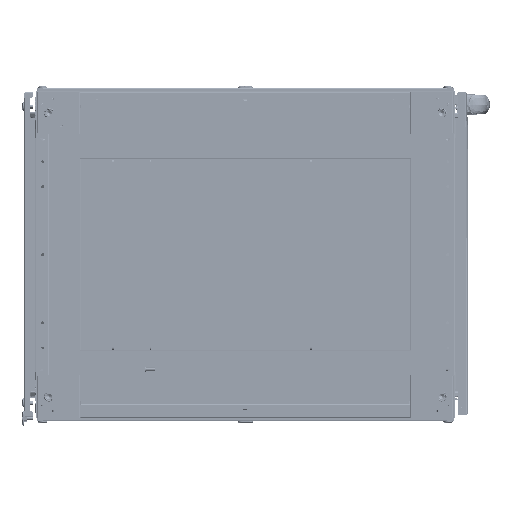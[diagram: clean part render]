
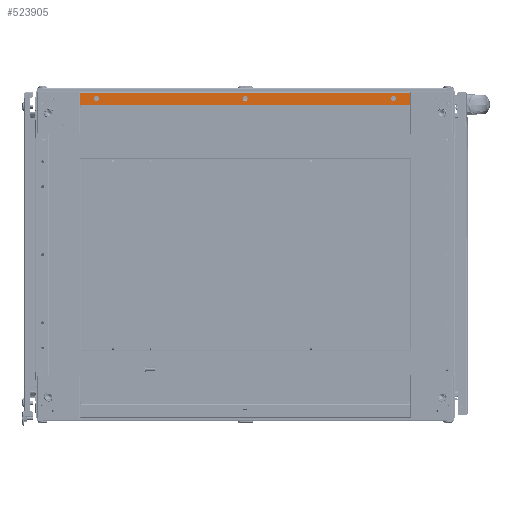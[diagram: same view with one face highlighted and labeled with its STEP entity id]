
A CAD part, front view. The second image highlights one B-rep face of the part: STEP entity #523905.
In plain terms, the highlighted planar face has unit normal (0, -1, 0) as drawn and (0, 0, -1) by its records, which use the part's own axes.
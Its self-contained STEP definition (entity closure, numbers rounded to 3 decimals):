
#7495 = FACE_BOUND ( 'NONE', #76565, .T. ) ;
#13530 = ORIENTED_EDGE ( 'NONE', *, *, #539765, .T. ) ;
#13567 = EDGE_LOOP ( 'NONE', ( #243268, #13530 ) ) ;
#22037 = CIRCLE ( 'NONE', #184922, 4.65 ) ;
#23595 = AXIS2_PLACEMENT_3D ( 'NONE', #283829, #716654, #280218 ) ;
#29387 = VERTEX_POINT ( 'NONE', #712438 ) ;
#41219 = ORIENTED_EDGE ( 'NONE', *, *, #387601, .T. ) ;
#41336 = ORIENTED_EDGE ( 'NONE', *, *, #698807, .F. ) ;
#51650 = CARTESIAN_POINT ( 'NONE',  ( 0., 1.51, -98.01 ) ) ;
#58454 = FACE_OUTER_BOUND ( 'NONE', #275339, .T. ) ;
#70582 = VERTEX_POINT ( 'NONE', #711353 ) ;
#76565 = EDGE_LOOP ( 'NONE', ( #439783, #254935 ) ) ;
#82566 = AXIS2_PLACEMENT_3D ( 'NONE', #467697, #456947, #678778 ) ;
#84052 = CARTESIAN_POINT ( 'NONE',  ( 306.65, 12.01, -98.01 ) ) ;
#95821 = DIRECTION ( 'NONE',  ( 0., 0., 1. ) ) ;
#97650 = CARTESIAN_POINT ( 'NONE',  ( 30.037, 7.36, -98.01 ) ) ;
#107367 = CARTESIAN_POINT ( 'NONE',  ( 604., 23., -98.01 ) ) ;
#158463 = VERTEX_POINT ( 'NONE', #313342 ) ;
#162172 = EDGE_CURVE ( 'NONE', #518348, #70582, #400437, .T. ) ;
#163911 = FACE_BOUND ( 'NONE', #13567, .T. ) ;
#165491 = LINE ( 'NONE', #107367, #265404 ) ;
#167482 = PLANE ( 'NONE',  #23595 ) ;
#174271 = CARTESIAN_POINT ( 'NONE',  ( 30.037, 12.01, -98.01 ) ) ;
#184922 = AXIS2_PLACEMENT_3D ( 'NONE', #608328, #95821, #546617 ) ;
#190268 = VERTEX_POINT ( 'NONE', #667768 ) ;
#195757 = ORIENTED_EDGE ( 'NONE', *, *, #448275, .T. ) ;
#203475 = CARTESIAN_POINT ( 'NONE',  ( 573.963, 12.01, -98.01 ) ) ;
#229040 = VERTEX_POINT ( 'NONE', #97650 ) ;
#236000 = DIRECTION ( 'NONE',  ( 0., -1., 0. ) ) ;
#243268 = ORIENTED_EDGE ( 'NONE', *, *, #324939, .T. ) ;
#244192 = CIRCLE ( 'NONE', #523018, 4.65 ) ;
#245425 = CARTESIAN_POINT ( 'NONE',  ( 604., 1.51, -98.01 ) ) ;
#254935 = ORIENTED_EDGE ( 'NONE', *, *, #341133, .F. ) ;
#256525 = EDGE_LOOP ( 'NONE', ( #41336, #570837 ) ) ;
#258455 = CARTESIAN_POINT ( 'NONE',  ( 604., 23., -98.01 ) ) ;
#265404 = VECTOR ( 'NONE', #387330, 1000. ) ;
#270116 = DIRECTION ( 'NONE',  ( 0., 1., 0. ) ) ;
#272067 = AXIS2_PLACEMENT_3D ( 'NONE', #203475, #425281, #636355 ) ;
#275339 = EDGE_LOOP ( 'NONE', ( #303536, #410450, #195757, #41219 ) ) ;
#280218 = DIRECTION ( 'NONE',  ( 0., -1., 0. ) ) ;
#283829 = CARTESIAN_POINT ( 'NONE',  ( 604., 23., -98.01 ) ) ;
#287465 = AXIS2_PLACEMENT_3D ( 'NONE', #381756, #549066, #637616 ) ;
#295646 = AXIS2_PLACEMENT_3D ( 'NONE', #597539, #593956, #270116 ) ;
#296319 = CARTESIAN_POINT ( 'NONE',  ( 0., 23., -98.01 ) ) ;
#303536 = ORIENTED_EDGE ( 'NONE', *, *, #423961, .F. ) ;
#313342 = CARTESIAN_POINT ( 'NONE',  ( 0., 23., -98.01 ) ) ;
#324939 = EDGE_CURVE ( 'NONE', #369216, #502641, #531510, .T. ) ;
#334796 = FACE_BOUND ( 'NONE', #256525, .T. ) ;
#341133 = EDGE_CURVE ( 'NONE', #70582, #518348, #585668, .T. ) ;
#348776 = VECTOR ( 'NONE', #412598, 1000. ) ;
#352284 = DIRECTION ( 'NONE',  ( 0., 0., -1. ) ) ;
#369216 = VERTEX_POINT ( 'NONE', #84052 ) ;
#374054 = EDGE_CURVE ( 'NONE', #644790, #158463, #525336, .T. ) ;
#381756 = CARTESIAN_POINT ( 'NONE',  ( 302., 12.01, -98.01 ) ) ;
#387330 = DIRECTION ( 'NONE',  ( 1., 0., 0. ) ) ;
#387601 = EDGE_CURVE ( 'NONE', #594329, #190268, #455640, .T. ) ;
#400437 = CIRCLE ( 'NONE', #295646, 4.65 ) ;
#401940 = EDGE_CURVE ( 'NONE', #229040, #29387, #663392, .T. ) ;
#407736 = CARTESIAN_POINT ( 'NONE',  ( 297.35, 12.01, -98.01 ) ) ;
#410450 = ORIENTED_EDGE ( 'NONE', *, *, #374054, .T. ) ;
#412598 = DIRECTION ( 'NONE',  ( 0., 1., 0. ) ) ;
#423961 = EDGE_CURVE ( 'NONE', #644790, #190268, #692691, .T. ) ;
#425281 = DIRECTION ( 'NONE',  ( 0., 0., -1. ) ) ;
#439783 = ORIENTED_EDGE ( 'NONE', *, *, #162172, .F. ) ;
#448275 = EDGE_CURVE ( 'NONE', #158463, #594329, #165491, .T. ) ;
#455640 = LINE ( 'NONE', #568318, #652475 ) ;
#456947 = DIRECTION ( 'NONE',  ( 0., 0., -1. ) ) ;
#467697 = CARTESIAN_POINT ( 'NONE',  ( 30.037, 12.01, -98.01 ) ) ;
#502641 = VERTEX_POINT ( 'NONE', #407736 ) ;
#518348 = VERTEX_POINT ( 'NONE', #695863 ) ;
#523018 = AXIS2_PLACEMENT_3D ( 'NONE', #174271, #352284, #236000 ) ;
#523905 = ADVANCED_FACE ( 'NONE', ( #334796, #7495, #163911, #58454 ), #167482, .F. ) ;
#525336 = LINE ( 'NONE', #296319, #348776 ) ;
#531510 = CIRCLE ( 'NONE', #287465, 4.65 ) ;
#539765 = EDGE_CURVE ( 'NONE', #502641, #369216, #22037, .T. ) ;
#546617 = DIRECTION ( 'NONE',  ( 0., -1., 0. ) ) ;
#549066 = DIRECTION ( 'NONE',  ( 0., 0., 1. ) ) ;
#568318 = CARTESIAN_POINT ( 'NONE',  ( 604., 23., -98.01 ) ) ;
#570837 = ORIENTED_EDGE ( 'NONE', *, *, #401940, .F. ) ;
#572812 = DIRECTION ( 'NONE',  ( 1., 0., 0. ) ) ;
#585668 = CIRCLE ( 'NONE', #272067, 4.65 ) ;
#593956 = DIRECTION ( 'NONE',  ( 0., 0., -1. ) ) ;
#594329 = VERTEX_POINT ( 'NONE', #258455 ) ;
#597539 = CARTESIAN_POINT ( 'NONE',  ( 573.963, 12.01, -98.01 ) ) ;
#608328 = CARTESIAN_POINT ( 'NONE',  ( 302., 12.01, -98.01 ) ) ;
#622672 = VECTOR ( 'NONE', #572812, 1000. ) ;
#636355 = DIRECTION ( 'NONE',  ( 0., 1., 0. ) ) ;
#637616 = DIRECTION ( 'NONE',  ( 0., -1., 0. ) ) ;
#644790 = VERTEX_POINT ( 'NONE', #51650 ) ;
#652475 = VECTOR ( 'NONE', #677466, 1000. ) ;
#663392 = CIRCLE ( 'NONE', #82566, 4.65 ) ;
#667768 = CARTESIAN_POINT ( 'NONE',  ( 604., 1.51, -98.01 ) ) ;
#677466 = DIRECTION ( 'NONE',  ( 0., -1., 0. ) ) ;
#678778 = DIRECTION ( 'NONE',  ( 0., -1., 0. ) ) ;
#692691 = LINE ( 'NONE', #245425, #622672 ) ;
#695863 = CARTESIAN_POINT ( 'NONE',  ( 573.963, 16.66, -98.01 ) ) ;
#698807 = EDGE_CURVE ( 'NONE', #29387, #229040, #244192, .T. ) ;
#711353 = CARTESIAN_POINT ( 'NONE',  ( 573.963, 7.36, -98.01 ) ) ;
#712438 = CARTESIAN_POINT ( 'NONE',  ( 30.037, 16.66, -98.01 ) ) ;
#716654 = DIRECTION ( 'NONE',  ( 0., 0., 1. ) ) ;
